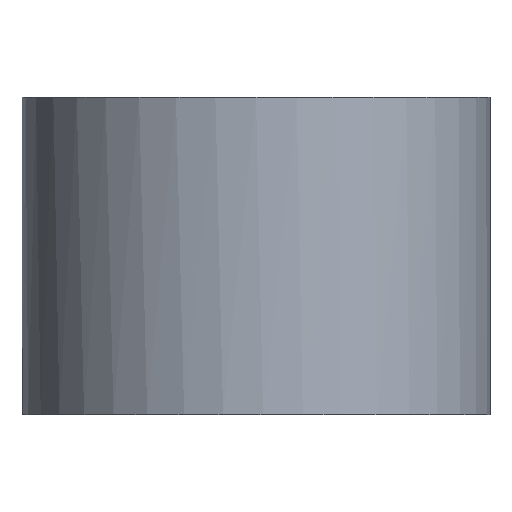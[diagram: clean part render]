
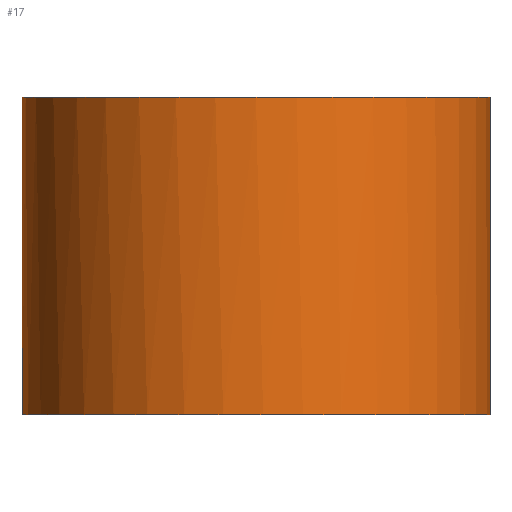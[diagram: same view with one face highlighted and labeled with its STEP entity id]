
A CAD part, front view. The second image highlights one B-rep face of the part: STEP entity #17.
In plain terms, the highlighted cylindrical face has radius 4.2 mm (diameter 8.4 mm), a full revolution.
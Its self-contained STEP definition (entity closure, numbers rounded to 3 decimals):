
#17 = ADVANCED_FACE('',(#18),#33,.T.);
#18 = FACE_BOUND('',#19,.F.);
#19 = EDGE_LOOP('',(#20,#56,#79,#106,#107,#131,#157,#190));
#20 = ORIENTED_EDGE('',*,*,#21,.F.);
#21 = EDGE_CURVE('',#22,#24,#26,.T.);
#22 = VERTEX_POINT('',#23);
#23 = CARTESIAN_POINT('',(4.2,-27.5,4.7));
#24 = VERTEX_POINT('',#25);
#25 = CARTESIAN_POINT('',(2.939,-24.5,4.7));
#26 = SURFACE_CURVE('',#27,(#32,#44),.PCURVE_S1.);
#27 = CIRCLE('',#28,4.2);
#28 = AXIS2_PLACEMENT_3D('',#29,#30,#31);
#29 = CARTESIAN_POINT('',(0.,-27.5,4.7));
#30 = DIRECTION('',(0.,0.,1.));
#31 = DIRECTION('',(1.,0.,0.));
#32 = PCURVE('',#33,#38);
#33 = CYLINDRICAL_SURFACE('',#34,4.2);
#34 = AXIS2_PLACEMENT_3D('',#35,#36,#37);
#35 = CARTESIAN_POINT('',(0.,-27.5,4.7));
#36 = DIRECTION('',(-0.,-0.,-1.));
#37 = DIRECTION('',(1.,0.,0.));
#38 = DEFINITIONAL_REPRESENTATION('',(#39),#43);
#39 = LINE('',#40,#41);
#40 = CARTESIAN_POINT('',(-0.,0.));
#41 = VECTOR('',#42,1.);
#42 = DIRECTION('',(-1.,0.));
#43 = ( GEOMETRIC_REPRESENTATION_CONTEXT(2) 
PARAMETRIC_REPRESENTATION_CONTEXT() REPRESENTATION_CONTEXT('2D SPACE',''
  ) );
#44 = PCURVE('',#45,#50);
#45 = PLANE('',#46);
#46 = AXIS2_PLACEMENT_3D('',#47,#48,#49);
#47 = CARTESIAN_POINT('',(0.,-27.5,4.7));
#48 = DIRECTION('',(0.,0.,1.));
#49 = DIRECTION('',(1.,0.,-0.));
#50 = DEFINITIONAL_REPRESENTATION('',(#51),#55);
#51 = CIRCLE('',#52,4.2);
#52 = AXIS2_PLACEMENT_2D('',#53,#54);
#53 = CARTESIAN_POINT('',(0.,0.));
#54 = DIRECTION('',(1.,0.));
#55 = ( GEOMETRIC_REPRESENTATION_CONTEXT(2) 
PARAMETRIC_REPRESENTATION_CONTEXT() REPRESENTATION_CONTEXT('2D SPACE',''
  ) );
#56 = ORIENTED_EDGE('',*,*,#57,.T.);
#57 = EDGE_CURVE('',#22,#58,#60,.T.);
#58 = VERTEX_POINT('',#59);
#59 = CARTESIAN_POINT('',(4.2,-27.5,10.4));
#60 = SEAM_CURVE('',#61,(#65,#72),.PCURVE_S1.);
#61 = LINE('',#62,#63);
#62 = CARTESIAN_POINT('',(4.2,-27.5,4.7));
#63 = VECTOR('',#64,1.);
#64 = DIRECTION('',(0.,0.,1.));
#65 = PCURVE('',#33,#66);
#66 = DEFINITIONAL_REPRESENTATION('',(#67),#71);
#67 = LINE('',#68,#69);
#68 = CARTESIAN_POINT('',(-6.283,0.));
#69 = VECTOR('',#70,1.);
#70 = DIRECTION('',(-0.,-1.));
#71 = ( GEOMETRIC_REPRESENTATION_CONTEXT(2) 
PARAMETRIC_REPRESENTATION_CONTEXT() REPRESENTATION_CONTEXT('2D SPACE',''
  ) );
#72 = PCURVE('',#33,#73);
#73 = DEFINITIONAL_REPRESENTATION('',(#74),#78);
#74 = LINE('',#75,#76);
#75 = CARTESIAN_POINT('',(-0.,0.));
#76 = VECTOR('',#77,1.);
#77 = DIRECTION('',(-0.,-1.));
#78 = ( GEOMETRIC_REPRESENTATION_CONTEXT(2) 
PARAMETRIC_REPRESENTATION_CONTEXT() REPRESENTATION_CONTEXT('2D SPACE',''
  ) );
#79 = ORIENTED_EDGE('',*,*,#80,.T.);
#80 = EDGE_CURVE('',#58,#58,#81,.T.);
#81 = SURFACE_CURVE('',#82,(#87,#94),.PCURVE_S1.);
#82 = CIRCLE('',#83,4.2);
#83 = AXIS2_PLACEMENT_3D('',#84,#85,#86);
#84 = CARTESIAN_POINT('',(0.,-27.5,10.4));
#85 = DIRECTION('',(0.,0.,1.));
#86 = DIRECTION('',(1.,0.,0.));
#87 = PCURVE('',#33,#88);
#88 = DEFINITIONAL_REPRESENTATION('',(#89),#93);
#89 = LINE('',#90,#91);
#90 = CARTESIAN_POINT('',(-0.,-5.7));
#91 = VECTOR('',#92,1.);
#92 = DIRECTION('',(-1.,0.));
#93 = ( GEOMETRIC_REPRESENTATION_CONTEXT(2) 
PARAMETRIC_REPRESENTATION_CONTEXT() REPRESENTATION_CONTEXT('2D SPACE',''
  ) );
#94 = PCURVE('',#95,#100);
#95 = PLANE('',#96);
#96 = AXIS2_PLACEMENT_3D('',#97,#98,#99);
#97 = CARTESIAN_POINT('',(0.,-27.5,10.4));
#98 = DIRECTION('',(0.,0.,1.));
#99 = DIRECTION('',(1.,0.,-0.));
#100 = DEFINITIONAL_REPRESENTATION('',(#101),#105);
#101 = CIRCLE('',#102,4.2);
#102 = AXIS2_PLACEMENT_2D('',#103,#104);
#103 = CARTESIAN_POINT('',(0.,0.));
#104 = DIRECTION('',(1.,0.));
#105 = ( GEOMETRIC_REPRESENTATION_CONTEXT(2) 
PARAMETRIC_REPRESENTATION_CONTEXT() REPRESENTATION_CONTEXT('2D SPACE',''
  ) );
#106 = ORIENTED_EDGE('',*,*,#57,.F.);
#107 = ORIENTED_EDGE('',*,*,#108,.F.);
#108 = EDGE_CURVE('',#109,#22,#111,.T.);
#109 = VERTEX_POINT('',#110);
#110 = CARTESIAN_POINT('',(-2.939,-24.5,4.7));
#111 = SURFACE_CURVE('',#112,(#117,#124),.PCURVE_S1.);
#112 = CIRCLE('',#113,4.2);
#113 = AXIS2_PLACEMENT_3D('',#114,#115,#116);
#114 = CARTESIAN_POINT('',(0.,-27.5,4.7));
#115 = DIRECTION('',(0.,0.,1.));
#116 = DIRECTION('',(1.,0.,0.));
#117 = PCURVE('',#33,#118);
#118 = DEFINITIONAL_REPRESENTATION('',(#119),#123);
#119 = LINE('',#120,#121);
#120 = CARTESIAN_POINT('',(-0.,0.));
#121 = VECTOR('',#122,1.);
#122 = DIRECTION('',(-1.,0.));
#123 = ( GEOMETRIC_REPRESENTATION_CONTEXT(2) 
PARAMETRIC_REPRESENTATION_CONTEXT() REPRESENTATION_CONTEXT('2D SPACE',''
  ) );
#124 = PCURVE('',#45,#125);
#125 = DEFINITIONAL_REPRESENTATION('',(#126),#130);
#126 = CIRCLE('',#127,4.2);
#127 = AXIS2_PLACEMENT_2D('',#128,#129);
#128 = CARTESIAN_POINT('',(0.,0.));
#129 = DIRECTION('',(1.,0.));
#130 = ( GEOMETRIC_REPRESENTATION_CONTEXT(2) 
PARAMETRIC_REPRESENTATION_CONTEXT() REPRESENTATION_CONTEXT('2D SPACE',''
  ) );
#131 = ORIENTED_EDGE('',*,*,#132,.F.);
#132 = EDGE_CURVE('',#133,#109,#135,.T.);
#133 = VERTEX_POINT('',#134);
#134 = CARTESIAN_POINT('',(-2.939,-24.5,9.));
#135 = SURFACE_CURVE('',#136,(#140,#146),.PCURVE_S1.);
#136 = LINE('',#137,#138);
#137 = CARTESIAN_POINT('',(-2.939,-24.5,4.7));
#138 = VECTOR('',#139,1.);
#139 = DIRECTION('',(-0.,-0.,-1.));
#140 = PCURVE('',#33,#141);
#141 = DEFINITIONAL_REPRESENTATION('',(#142),#145);
#142 = B_SPLINE_CURVE_WITH_KNOTS('',1,(#143,#144),.UNSPECIFIED.,.F.,.F.,
  (2,2),(-5.7,0.),.PIECEWISE_BEZIER_KNOTS.);
#143 = CARTESIAN_POINT('',(-2.346,-5.7));
#144 = CARTESIAN_POINT('',(-2.346,0.));
#145 = ( GEOMETRIC_REPRESENTATION_CONTEXT(2) 
PARAMETRIC_REPRESENTATION_CONTEXT() REPRESENTATION_CONTEXT('2D SPACE',''
  ) );
#146 = PCURVE('',#147,#152);
#147 = PLANE('',#148);
#148 = AXIS2_PLACEMENT_3D('',#149,#150,#151);
#149 = CARTESIAN_POINT('',(-10.,-24.5,-20.));
#150 = DIRECTION('',(0.,1.,0.));
#151 = DIRECTION('',(0.,0.,1.));
#152 = DEFINITIONAL_REPRESENTATION('',(#153),#156);
#153 = B_SPLINE_CURVE_WITH_KNOTS('',1,(#154,#155),.UNSPECIFIED.,.F.,.F.,
  (2,2),(-5.7,0.),.PIECEWISE_BEZIER_KNOTS.);
#154 = CARTESIAN_POINT('',(30.4,7.061));
#155 = CARTESIAN_POINT('',(24.7,7.061));
#156 = ( GEOMETRIC_REPRESENTATION_CONTEXT(2) 
PARAMETRIC_REPRESENTATION_CONTEXT() REPRESENTATION_CONTEXT('2D SPACE',''
  ) );
#157 = ORIENTED_EDGE('',*,*,#158,.T.);
#158 = EDGE_CURVE('',#133,#159,#161,.T.);
#159 = VERTEX_POINT('',#160);
#160 = CARTESIAN_POINT('',(2.939,-24.5,9.));
#161 = SURFACE_CURVE('',#162,(#167,#174),.PCURVE_S1.);
#162 = CIRCLE('',#163,4.2);
#163 = AXIS2_PLACEMENT_3D('',#164,#165,#166);
#164 = CARTESIAN_POINT('',(0.,-27.5,9.));
#165 = DIRECTION('',(0.,0.,-1.));
#166 = DIRECTION('',(1.,0.,0.));
#167 = PCURVE('',#33,#168);
#168 = DEFINITIONAL_REPRESENTATION('',(#169),#173);
#169 = LINE('',#170,#171);
#170 = CARTESIAN_POINT('',(-6.283,-4.3));
#171 = VECTOR('',#172,1.);
#172 = DIRECTION('',(1.,-0.));
#173 = ( GEOMETRIC_REPRESENTATION_CONTEXT(2) 
PARAMETRIC_REPRESENTATION_CONTEXT() REPRESENTATION_CONTEXT('2D SPACE',''
  ) );
#174 = PCURVE('',#175,#180);
#175 = PLANE('',#176);
#176 = AXIS2_PLACEMENT_3D('',#177,#178,#179);
#177 = CARTESIAN_POINT('',(-10.,-24.5,9.));
#178 = DIRECTION('',(0.,0.,1.));
#179 = DIRECTION('',(1.,0.,0.));
#180 = DEFINITIONAL_REPRESENTATION('',(#181),#189);
#181 = ( BOUNDED_CURVE() B_SPLINE_CURVE(2,(#182,#183,#184,#185,#186,#187
,#188),.UNSPECIFIED.,.T.,.F.) B_SPLINE_CURVE_WITH_KNOTS((1,2,2,2,2,1),(
    -2.094,0.,2.094,4.189,6.283,
8.378),.UNSPECIFIED.) CURVE() GEOMETRIC_REPRESENTATION_ITEM() 
RATIONAL_B_SPLINE_CURVE((1.,0.5,1.,0.5,1.,0.5,1.)) REPRESENTATION_ITEM(
  '') );
#182 = CARTESIAN_POINT('',(14.2,-3.));
#183 = CARTESIAN_POINT('',(14.2,-10.275));
#184 = CARTESIAN_POINT('',(7.9,-6.637));
#185 = CARTESIAN_POINT('',(1.6,-3.));
#186 = CARTESIAN_POINT('',(7.9,0.637));
#187 = CARTESIAN_POINT('',(14.2,4.275));
#188 = CARTESIAN_POINT('',(14.2,-3.));
#189 = ( GEOMETRIC_REPRESENTATION_CONTEXT(2) 
PARAMETRIC_REPRESENTATION_CONTEXT() REPRESENTATION_CONTEXT('2D SPACE',''
  ) );
#190 = ORIENTED_EDGE('',*,*,#191,.T.);
#191 = EDGE_CURVE('',#159,#24,#192,.T.);
#192 = SURFACE_CURVE('',#193,(#197,#203),.PCURVE_S1.);
#193 = LINE('',#194,#195);
#194 = CARTESIAN_POINT('',(2.939,-24.5,4.7));
#195 = VECTOR('',#196,1.);
#196 = DIRECTION('',(-0.,-0.,-1.));
#197 = PCURVE('',#33,#198);
#198 = DEFINITIONAL_REPRESENTATION('',(#199),#202);
#199 = B_SPLINE_CURVE_WITH_KNOTS('',1,(#200,#201),.UNSPECIFIED.,.F.,.F.,
  (2,2),(-5.7,0.),.PIECEWISE_BEZIER_KNOTS.);
#200 = CARTESIAN_POINT('',(-0.796,-5.7));
#201 = CARTESIAN_POINT('',(-0.796,0.));
#202 = ( GEOMETRIC_REPRESENTATION_CONTEXT(2) 
PARAMETRIC_REPRESENTATION_CONTEXT() REPRESENTATION_CONTEXT('2D SPACE',''
  ) );
#203 = PCURVE('',#147,#204);
#204 = DEFINITIONAL_REPRESENTATION('',(#205),#208);
#205 = B_SPLINE_CURVE_WITH_KNOTS('',1,(#206,#207),.UNSPECIFIED.,.F.,.F.,
  (2,2),(-5.7,0.),.PIECEWISE_BEZIER_KNOTS.);
#206 = CARTESIAN_POINT('',(30.4,12.939));
#207 = CARTESIAN_POINT('',(24.7,12.939));
#208 = ( GEOMETRIC_REPRESENTATION_CONTEXT(2) 
PARAMETRIC_REPRESENTATION_CONTEXT() REPRESENTATION_CONTEXT('2D SPACE',''
  ) );
